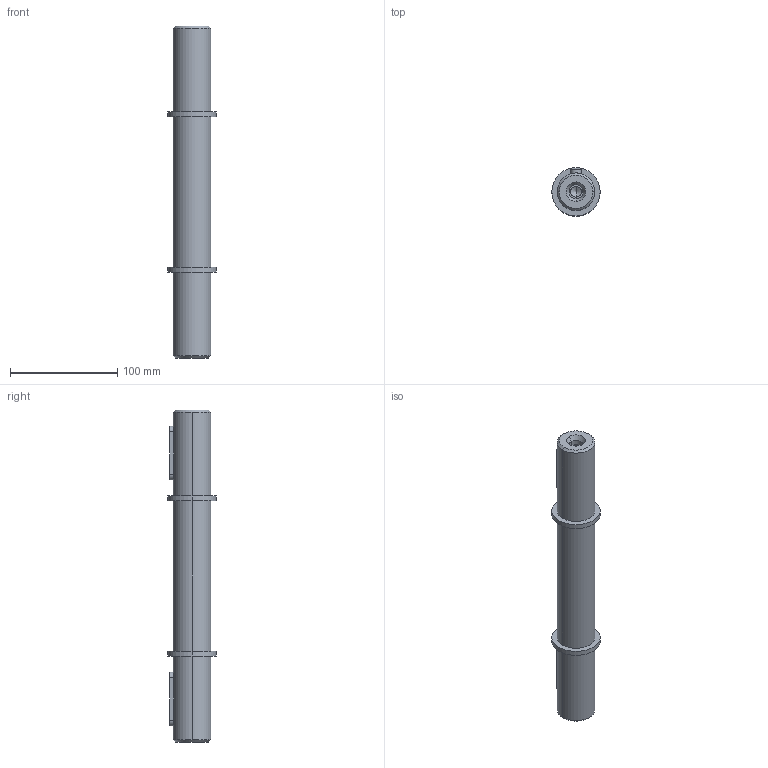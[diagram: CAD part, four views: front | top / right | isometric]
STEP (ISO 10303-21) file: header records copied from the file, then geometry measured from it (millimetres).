
FILE_DESCRIPTION(/* description */ (''),/* implementation_level */ '2;1');
FILE_NAME(/* name */ '5_ALBERO LENTO BISPORGENTE NMRV-P090',/* time_stamp */ '2025-10-09T15:26:01+02:00',/* author */ (''),/* organization */ (''),/* preprocessor_version */ 'ST-DEVELOPER v19.2',/* originating_system */ 'Rhino 8.23',/* authorisation */ '');
FILE_SCHEMA (('CONFIG_CONTROL_DESIGN'));
Length unit declared in the file: millimetre
Products named in the file (2): Document; AL 090-35(2-0)-p
Bounding box: 45 x 45 x 309 mm (x, y, z)
Volume: 298107.9 mm3; surface area: 41694.7 mm2
Topology: 1 solids, 1 shells, 48 faces, 103 edges, 63 vertices
Faces by surface type: cylinder 22, plane 14, bspline 12
Entity records: 1609 total; most frequent: CARTESIAN_POINT 498, ORIENTED_EDGE 198, DIRECTION 142, EDGE_CURVE 99, AXIS2_PLACEMENT_3D 89, VERTEX_POINT 63, EDGE_LOOP 58, B_SPLINE_CURVE_WITH_KNOTS 50
